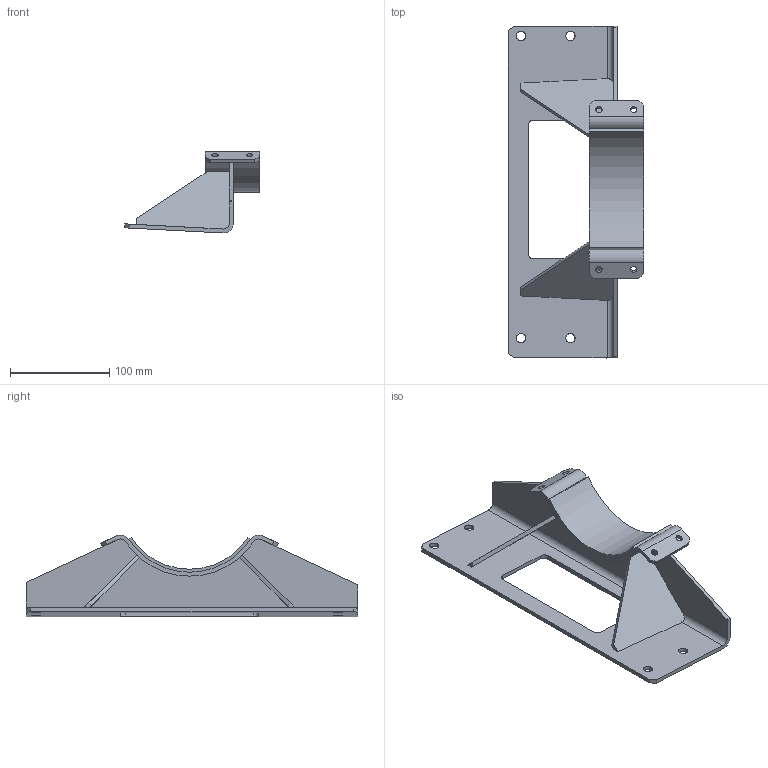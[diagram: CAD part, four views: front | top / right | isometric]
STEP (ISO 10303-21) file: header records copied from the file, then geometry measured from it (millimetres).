
FILE_DESCRIPTION(/* description */ ('SUPPORT ARRIERE','CAx-IF Rec.Pracs.---Representation and Presentation of Product Manufacturing Information (PMI)---4.0---2014-10-13'),/* implementation_level */ '2;1');
FILE_NAME(/* name */ 'vv110303-B.stp',/* time_stamp */ '2025-10-14T13:17:19+02:00',/* author */ ('CORDOLIANI J.'),/* organization */ (''),/* preprocessor_version */ 'ST-DEVELOPER v20',/* originating_system */ 'Autodesk Inventor 2025',/* authorisation */ '');
FILE_SCHEMA (('AP242_MANAGED_MODEL_BASED_3D_ENGINEERING_MIM_LF { 1 0 10303 442 1 1 4 }'));
Length unit declared in the file: millimetre
Products named in the file (1): VICTOR.V.11.03.03
Bounding box: 136.35 x 335 x 82.69 mm (x, y, z)
Volume: 280421.7 mm3; surface area: 156379 mm2
Topology: 5 solids, 5 shells, 76 faces, 198 edges, 132 vertices
Faces by surface type: plane 45, cylinder 31
Full cylindrical faces by diameter (mm): 6.5 x4, 9.5 x4
Entity records: 3153 total; most frequent: CARTESIAN_POINT 665, DIRECTION 482, ORIENTED_EDGE 396, EDGE_CURVE 198, AXIS2_PLACEMENT_3D 173, STYLED_ITEM 144, LINE 136, VECTOR 136
